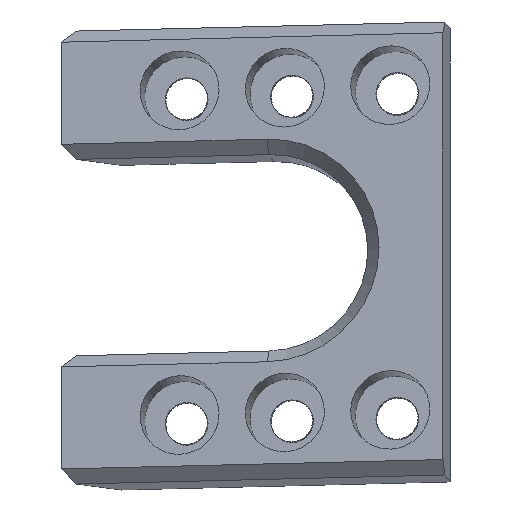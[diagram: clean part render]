
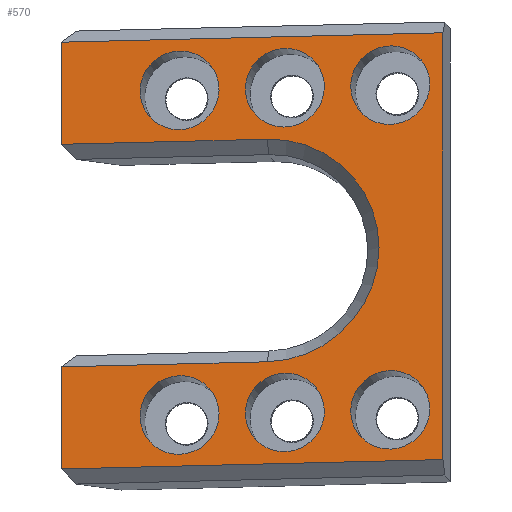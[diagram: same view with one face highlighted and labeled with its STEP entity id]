
A CAD part, top view. The second image highlights one B-rep face of the part: STEP entity #570.
In plain terms, the highlighted planar face has unit normal (-0.139, 0.172, 0.975).
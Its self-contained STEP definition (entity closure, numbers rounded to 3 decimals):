
#15=FACE_BOUND('',#124,.T.);
#16=FACE_BOUND('',#125,.T.);
#17=FACE_BOUND('',#126,.T.);
#18=FACE_BOUND('',#127,.T.);
#19=FACE_BOUND('',#128,.T.);
#20=FACE_BOUND('',#129,.T.);
#41=CIRCLE('',#617,3.);
#43=CIRCLE('',#621,3.);
#45=CIRCLE('',#625,3.);
#47=CIRCLE('',#630,8.5);
#48=CIRCLE('',#632,3.);
#49=CIRCLE('',#633,3.);
#50=CIRCLE('',#634,3.);
#90=FACE_OUTER_BOUND('',#123,.T.);
#123=EDGE_LOOP('',(#449,#450,#451,#452,#453,#454,#455,#456));
#124=EDGE_LOOP('',(#457));
#125=EDGE_LOOP('',(#458));
#126=EDGE_LOOP('',(#459));
#127=EDGE_LOOP('',(#460));
#128=EDGE_LOOP('',(#461));
#129=EDGE_LOOP('',(#462));
#155=LINE('',#844,#207);
#159=LINE('',#853,#211);
#163=LINE('',#861,#215);
#178=LINE('',#916,#230);
#181=LINE('',#925,#233);
#182=LINE('',#927,#234);
#183=LINE('',#928,#235);
#207=VECTOR('',#668,10.);
#211=VECTOR('',#676,10.);
#215=VECTOR('',#682,10.);
#230=VECTOR('',#743,10.);
#233=VECTOR('',#754,10.);
#234=VECTOR('',#755,10.);
#235=VECTOR('',#756,10.);
#256=VERTEX_POINT('',#837);
#259=VERTEX_POINT('',#842);
#262=VERTEX_POINT('',#852);
#265=VERTEX_POINT('',#860);
#274=VERTEX_POINT('',#888);
#276=VERTEX_POINT('',#896);
#278=VERTEX_POINT('',#904);
#281=VERTEX_POINT('',#913);
#282=VERTEX_POINT('',#915);
#284=VERTEX_POINT('',#924);
#285=VERTEX_POINT('',#926);
#286=VERTEX_POINT('',#929);
#287=VERTEX_POINT('',#931);
#288=VERTEX_POINT('',#933);
#307=EDGE_CURVE('',#259,#256,#155,.T.);
#311=EDGE_CURVE('',#262,#256,#159,.T.);
#315=EDGE_CURVE('',#265,#262,#163,.T.);
#330=EDGE_CURVE('',#274,#274,#41,.T.);
#334=EDGE_CURVE('',#276,#276,#43,.T.);
#338=EDGE_CURVE('',#278,#278,#45,.T.);
#342=EDGE_CURVE('',#281,#282,#178,.T.);
#346=EDGE_CURVE('',#282,#259,#47,.T.);
#347=EDGE_CURVE('',#284,#281,#181,.T.);
#348=EDGE_CURVE('',#285,#284,#182,.T.);
#349=EDGE_CURVE('',#285,#265,#183,.T.);
#350=EDGE_CURVE('',#286,#286,#48,.T.);
#351=EDGE_CURVE('',#287,#287,#49,.T.);
#352=EDGE_CURVE('',#288,#288,#50,.T.);
#449=ORIENTED_EDGE('',*,*,#346,.F.);
#450=ORIENTED_EDGE('',*,*,#342,.F.);
#451=ORIENTED_EDGE('',*,*,#347,.F.);
#452=ORIENTED_EDGE('',*,*,#348,.F.);
#453=ORIENTED_EDGE('',*,*,#349,.T.);
#454=ORIENTED_EDGE('',*,*,#315,.T.);
#455=ORIENTED_EDGE('',*,*,#311,.T.);
#456=ORIENTED_EDGE('',*,*,#307,.F.);
#457=ORIENTED_EDGE('',*,*,#330,.F.);
#458=ORIENTED_EDGE('',*,*,#334,.F.);
#459=ORIENTED_EDGE('',*,*,#338,.F.);
#460=ORIENTED_EDGE('',*,*,#350,.T.);
#461=ORIENTED_EDGE('',*,*,#351,.T.);
#462=ORIENTED_EDGE('',*,*,#352,.T.);
#547=PLANE('',#631);
#570=ADVANCED_FACE('',(#90,#15,#16,#17,#18,#19,#20),#547,.F.);
#617=AXIS2_PLACEMENT_3D('',#890,#714,#715);
#621=AXIS2_PLACEMENT_3D('',#898,#724,#725);
#625=AXIS2_PLACEMENT_3D('',#906,#734,#735);
#630=AXIS2_PLACEMENT_3D('',#922,#750,#751);
#631=AXIS2_PLACEMENT_3D('',#923,#752,#753);
#632=AXIS2_PLACEMENT_3D('',#930,#757,#758);
#633=AXIS2_PLACEMENT_3D('',#932,#759,#760);
#634=AXIS2_PLACEMENT_3D('',#934,#761,#762);
#668=DIRECTION('',(-0.99,-0.024,-0.137));
#676=DIRECTION('',(0.,-0.985,0.174));
#682=DIRECTION('',(-0.99,-0.024,-0.137));
#714=DIRECTION('center_axis',(-0.139,0.172,0.975));
#715=DIRECTION('ref_axis',(0.99,0.,0.141));
#724=DIRECTION('center_axis',(-0.139,0.172,0.975));
#725=DIRECTION('ref_axis',(0.99,0.,0.141));
#734=DIRECTION('center_axis',(-0.139,0.172,0.975));
#735=DIRECTION('ref_axis',(0.99,0.,0.141));
#743=DIRECTION('',(0.99,0.024,0.137));
#750=DIRECTION('center_axis',(-0.139,0.172,0.975));
#751=DIRECTION('ref_axis',(0.7,0.713,-0.026));
#752=DIRECTION('center_axis',(0.139,-0.172,-0.975));
#753=DIRECTION('ref_axis',(0.99,0.024,0.137));
#754=DIRECTION('',(0.,0.985,-0.174));
#755=DIRECTION('',(-0.99,-0.024,-0.137));
#756=DIRECTION('',(0.,0.985,-0.174));
#757=DIRECTION('center_axis',(0.139,-0.172,-0.975));
#758=DIRECTION('ref_axis',(0.99,0.048,0.133));
#759=DIRECTION('center_axis',(0.139,-0.172,-0.975));
#760=DIRECTION('ref_axis',(0.99,0.048,0.133));
#761=DIRECTION('center_axis',(0.139,-0.172,-0.975));
#762=DIRECTION('ref_axis',(0.99,0.048,0.133));
#837=CARTESIAN_POINT('',(49.08,-285.706,43.199));
#842=CARTESIAN_POINT('',(64.528,-285.329,45.337));
#844=CARTESIAN_POINT('',(55.585,-285.547,44.099));
#852=CARTESIAN_POINT('',(49.08,-278.025,41.844));
#853=CARTESIAN_POINT('',(49.08,-277.532,41.757));
#860=CARTESIAN_POINT('',(77.748,-277.325,45.812));
#861=CARTESIAN_POINT('',(56.08,-277.854,42.813));
#888=CARTESIAN_POINT('',(54.973,-281.649,43.324));
#890=CARTESIAN_POINT('Origin',(57.942,-281.649,43.748));
#896=CARTESIAN_POINT('',(62.895,-281.456,44.421));
#898=CARTESIAN_POINT('Origin',(65.865,-281.456,44.844));
#904=CARTESIAN_POINT('',(70.817,-281.263,45.517));
#906=CARTESIAN_POINT('Origin',(73.787,-281.263,45.941));
#913=CARTESIAN_POINT('',(49.08,-302.448,46.151));
#915=CARTESIAN_POINT('',(64.528,-302.071,48.289));
#916=CARTESIAN_POINT('',(55.585,-302.289,47.051));
#922=CARTESIAN_POINT('Origin',(64.528,-293.7,46.813));
#923=CARTESIAN_POINT('Origin',(48.882,-277.537,41.73));
#924=CARTESIAN_POINT('',(49.08,-310.129,47.505));
#925=CARTESIAN_POINT('',(49.08,-310.622,47.592));
#926=CARTESIAN_POINT('',(77.748,-309.43,51.473));
#927=CARTESIAN_POINT('',(56.08,-309.959,48.474));
#928=CARTESIAN_POINT('',(77.748,-286.484,47.427));
#929=CARTESIAN_POINT('',(70.817,-305.831,49.849));
#930=CARTESIAN_POINT('Origin',(73.787,-305.686,50.247));
#931=CARTESIAN_POINT('',(54.973,-306.217,47.656));
#932=CARTESIAN_POINT('Origin',(57.942,-306.072,48.054));
#933=CARTESIAN_POINT('',(62.895,-306.024,48.753));
#934=CARTESIAN_POINT('Origin',(65.865,-305.879,49.151));
